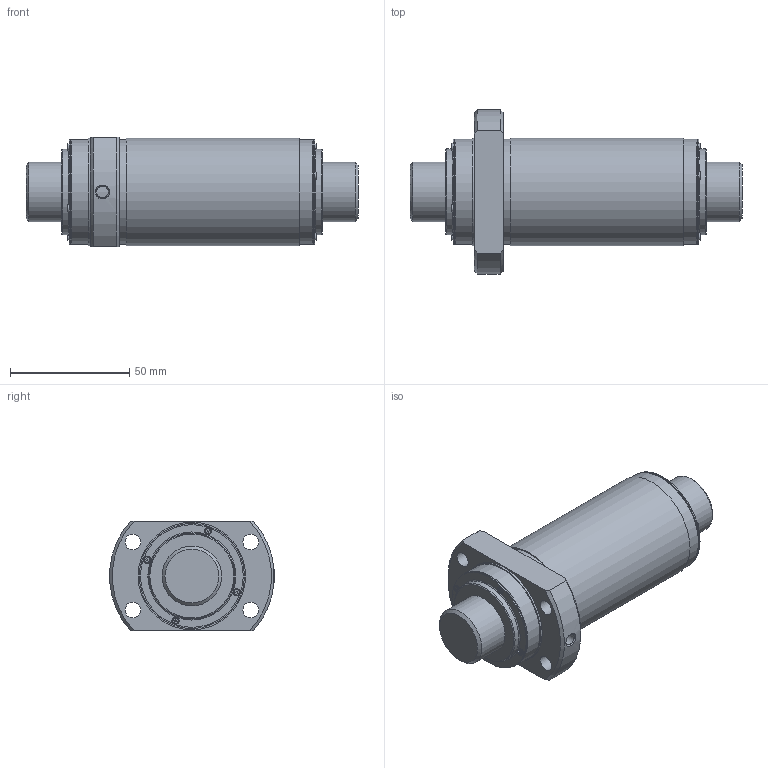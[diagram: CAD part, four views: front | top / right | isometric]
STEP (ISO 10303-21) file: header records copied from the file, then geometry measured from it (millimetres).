
FILE_DESCRIPTION(/* description */ ('STEP AP203'),/* implementation_level */ '2;1');
FILE_NAME(/* name */ 'WTF2550-3ZZ+139LC7T_000_rev',/* time_stamp */ '2025-06-11T06:40:27+02:00',/* author */ ('License CC BY-ND 4.0'),/* organization */ ('CADENAS'),/* preprocessor_version */ 'ST-DEVELOPER v19.3',/* originating_system */ 'PARTsolutions',/* authorisation */ ' ');
FILE_SCHEMA (('CONFIG_CONTROL_DESIGN'));
Length unit declared in the file: millimetre
Products named in the file (3): WTF2550-3ZZ+139LC7T_000_rev; WTF2550-30ZZ0 Shaft; WTF2550-3ZZ Nut
Assembly tree (2 placements, depth 2):
  WTF2550-3ZZ+139LC7T_000_rev
    WTF2550-30ZZ0 Shaft
    WTF2550-3ZZ Nut
Bounding box: 139 x 68.89 x 46 mm (x, y, z)
Volume: 196989.8 mm3; surface area: 42323.4 mm2
Topology: 2 solids, 2 shells, 206 faces, 515 edges, 338 vertices
Faces by surface type: plane 127, cylinder 58, torus 12, cone 9
Full cylindrical faces by diameter (mm): 3 x8, 4.917 x1, 6.6 x4, 25 x2, 36 x2, 44 x5, 45 x2
Entity records: 6035 total; most frequent: CARTESIAN_POINT 1063, DIRECTION 1016, ORIENTED_EDGE 946, EDGE_CURVE 473, AXIS2_PLACEMENT_3D 344, VERTEX_POINT 337, LINE 328, VECTOR 328
